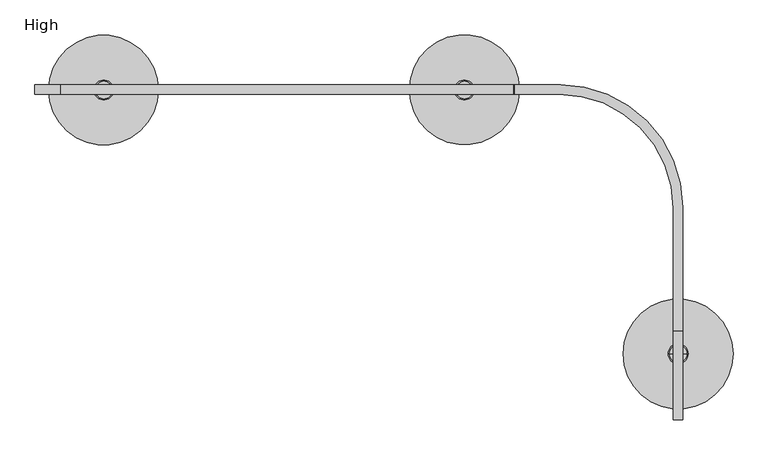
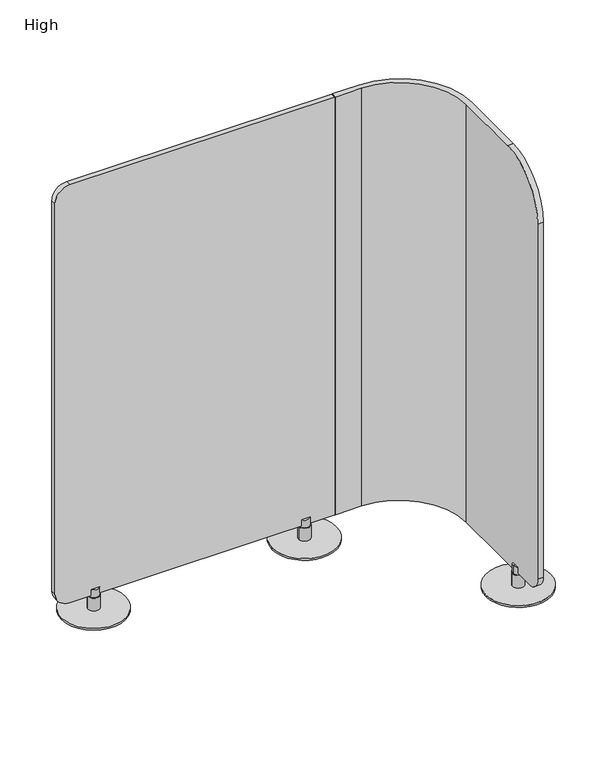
"""IFC4 building model written with IfcOpenShell, lengths in millimetres: furniture geometry, Coalesse_AM_SpaceDivision_Screen_Ensemble_J : High."""

from ifc_helpers import new_model, si_unit, point, frame, frame_2d, origin, origin_with_axes, place, context, project, spatial, polyline, circle_curve, trimmed, segment, composite_curve, outline, extrude, source, transform, mapped, element, save
from ifc_brep_helpers import plane_surface, cylinder_surface, revolved_surface, advanced_brep


def high_5fa6e08a(model_context):
    return source(origin(), model_context, "Body", "SolidModel", [
        advanced_brep(
        [(1070.6348132, -12.7, 7.8732992), (1121.4348132, -12.7, 7.8732992), (1096.0348132, -12.7, 7.8732992), (1070.6348132, -12.7, 67.1258584), (1121.4348132, -12.7, 67.1258584), (1073.8888853, -12.7, 67.1258584), (1118.1807411, -12.7, 67.1258584), (1073.8888853, -12.7, 102.873817), (1118.1807411, -12.7, 102.873817), (1096.0348132, -12.7, 102.873817)],
        [
            (0, 1, circle_curve(frame((1096.0348132, -12.7, 7.8732992), z_axis=(0.0, 0.0, -1.0), x_axis=(1.0, 0.0, 0.0)), 25.4)),
            (1, 2),
            (2, 0),
            (1, 0, circle_curve(frame((1096.0348132, -12.7, 7.8732992), z_axis=(0.0, 0.0, -1.0), x_axis=(1.0, 0.0, 0.0)), 25.4)),
            (3, 4, circle_curve(frame((1096.0348132, -12.7, 67.1258584), z_axis=(0.0, 0.0, -1.0), x_axis=(1.0, 0.0, 0.0)), 25.4)),
            (4, 1),
            (0, 3),
            (4, 3, circle_curve(frame((1096.0348132, -12.7, 67.1258584), z_axis=(0.0, 0.0, -1.0), x_axis=(1.0, 0.0, 0.0)), 25.4)),
            (5, 6, circle_curve(frame((1096.0348132, -12.7, 67.1258584), z_axis=(0.0, 0.0, -1.0), x_axis=(1.0, 0.0, 0.0)), 22.1459279)),
            (6, 4),
            (3, 5),
            (6, 5, circle_curve(frame((1096.0348132, -12.7, 67.1258584), z_axis=(0.0, 0.0, -1.0), x_axis=(1.0, 0.0, 0.0)), 22.1459279)),
            (7, 8, circle_curve(frame((1096.0348132, -12.7, 102.873817), z_axis=(0.0, 0.0, -1.0), x_axis=(1.0, 0.0, 0.0)), 22.1459279)),
            (8, 6),
            (5, 7),
            (8, 7, circle_curve(frame((1096.0348132, -12.7, 102.873817), z_axis=(0.0, 0.0, -1.0), x_axis=(1.0, 0.0, 0.0)), 22.1459279)),
            (9, 8),
            (7, 9),
        ],
        [
            plane_surface(frame((1096.0348132, -12.7, 7.8732992), z_axis=(0.0, 0.0, -1.0), x_axis=(1.0, 0.0, 0.0))),
            cylinder_surface(frame((1096.0348132, -12.7, 102.873817), z_axis=(0.0, 0.0, 1.0), x_axis=(1.0, 0.0, 0.0)), 25.4),
            plane_surface(frame((1096.0348132, -12.7, 67.1258584), z_axis=(0.0, 0.0, 1.0), x_axis=(1.0, 0.0, 0.0))),
            cylinder_surface(frame((1096.0348132, -12.7, 102.873817), z_axis=(0.0, 0.0, 1.0), x_axis=(1.0, 0.0, 0.0)), 22.1459279),
            plane_surface(frame((1096.0348132, -12.7, 102.873817), z_axis=(0.0, 0.0, 1.0), x_axis=(1.0, 0.0, 0.0))),
        ],
        [
            (0, [[1, 2, 3]]),
            (0, [[4, -3, -2]]),
            (1, [[5, 6, -1, 7]]),
            (1, [[8, -7, -4, -6]]),
            (2, [[9, 10, -5, 11]]),
            (2, [[12, -11, -8, -10]]),
            (3, [[13, 14, -9, 15]]),
            (3, [[16, -15, -12, -14]]),
            (4, [[17, -13, 18]]),
            (4, [[-18, -16, -17]]),
        ],
    ),
        advanced_brep(
        [(1653.2794195, -628.1115594, 2004.822), (1653.2794195, -853.9734079, 1778.9601515), (1653.2794195, -853.9734079, 139.3436268), (1653.2794195, -789.1395851, 74.509804), (1653.2794195, -311.8992003, 74.5093328), (1653.2794195, -311.8992003, 2004.822), (1629.3018689, -789.1395851, 74.509804), (1629.3018689, -853.9734079, 139.3436268), (1629.3018689, -853.9734079, 1778.9601515), (1629.3018689, -628.1115594, 2004.822), (1629.3018689, -314.6621864, 2004.822), (1629.3018689, -314.6621864, 74.5093328), (1338.6115194, -23.9718373, 74.509804), (1224.5282013, -23.9774863, 74.509804), (1224.5282013, 0.0, 74.509804), (1341.4047188, 0.0, 74.509804), (1341.4047188, 0.0, 2004.822), (1224.5474217, 0.0, 2004.822), (1224.5474217, -23.9774863, 2004.822), (1338.6115194, -23.9718373, 2004.822), (1223.313448, 0.0, 75.7241996), (1223.313448, 0.0, 2003.5880263), (1223.313448, -23.9774863, 2003.5880263), (1223.313448, -23.9774863, 75.7241996)],
        [
            (0, 1, circle_curve(frame((1653.2794195, -628.1115594, 1778.9601515), z_axis=(1.0, 0.0, 0.0), x_axis=(0.0, 1.0, 0.0)), 225.8618485)),
            (1, 2),
            (2, 3, circle_curve(frame((1653.2794195, -789.1395851, 139.3436268), z_axis=(1.0, 0.0, 0.0), x_axis=(0.0, 1.0, 0.0)), 64.8338228)),
            (3, 4),
            (4, 5),
            (5, 0),
            (6, 7, circle_curve(frame((1629.3018689, -789.1395851, 139.3436268), z_axis=(-1.0, 0.0, 0.0), x_axis=(0.0, 1.0, 0.0)), 64.8338228)),
            (7, 8),
            (8, 9, circle_curve(frame((1629.3018689, -628.1115594, 1778.9601515), z_axis=(-1.0, 0.0, 0.0), x_axis=(0.0, 1.0, 0.0)), 225.8618485)),
            (9, 10),
            (10, 11),
            (11, 6),
            (0, 9),
            (8, 1),
            (7, 2),
            (6, 3),
            (11, 12, circle_curve(frame((1338.6115194, -314.6621864, 74.509804), z_axis=(0.0, 0.0, 1.0), x_axis=(1.0, 0.0, 0.0)), 290.690349)),
            (12, 13),
            (13, 14),
            (14, 15),
            (15, 4, circle_curve(frame((1341.4047188, -311.8992003, 74.509804), z_axis=(0.0, 0.0, -1.0), x_axis=(1.0, 0.0, 0.0)), 311.8992003)),
            (5, 16, circle_curve(frame((1341.4047188, -311.8992003, 2004.822), z_axis=(0.0, 0.0, 1.0), x_axis=(1.0, 0.0, 0.0)), 311.8992003)),
            (16, 17),
            (17, 18),
            (18, 19),
            (19, 10, circle_curve(frame((1338.6115194, -314.6621864, 2004.822), z_axis=(0.0, 0.0, -1.0), x_axis=(1.0, 0.0, 0.0)), 290.690349)),
            (15, 16),
            (14, 20, circle_curve(frame((1224.5282013, 0.0, 75.7241996), z_axis=(0.0, 1.0, 0.0), x_axis=(1.0, 0.0, 0.0)), 1.2147532)),
            (20, 21),
            (21, 17, circle_curve(frame((1224.5474217, 0.0, 2003.5880263), z_axis=(0.0, 1.0, 0.0), x_axis=(1.0, 0.0, 0.0)), 1.2339737)),
            (22, 18, circle_curve(frame((1224.5474217, -23.9774863, 2003.5880263), z_axis=(0.0, 1.0, 0.0), x_axis=(1.0, 0.0, 0.0)), 1.2339737)),
            (21, 22),
            (23, 22),
            (20, 23),
            (13, 23, circle_curve(frame((1224.5282013, -23.9774863, 75.7241996), z_axis=(0.0, 1.0, 0.0), x_axis=(1.0, 0.0, 0.0)), 1.2147532)),
            (12, 19),
        ],
        [
            plane_surface(frame((1653.2794195, -402.2497109, 1778.9601515), z_axis=(1.0, 0.0, 0.0), x_axis=(0.0, 0.0, 1.0))),
            plane_surface(frame((1629.3018689, -402.2497109, 1778.9601515), z_axis=(-1.0, 0.0, 0.0), x_axis=(0.0, 0.0, -1.0))),
            cylinder_surface(frame((1629.3018689, -628.1115594, 1778.9601515), z_axis=(1.0, 0.0, 0.0), x_axis=(0.0, 1.0, 0.0)), 225.8618485),
            plane_surface(frame((1653.2794195, -853.9734079, 1778.9601515), z_axis=(0.0, -1.0, 0.0), x_axis=(-1.0, 0.0, 0.0))),
            cylinder_surface(frame((1629.3018689, -789.1395851, 139.3436268), z_axis=(1.0, 0.0, 0.0), x_axis=(0.0, 1.0, 0.0)), 64.8338228),
            plane_surface(frame((1653.2794195, -789.1395851, 74.509804), z_axis=(0.0, 0.0, -1.0), x_axis=(-1.0, 0.0, 0.0))),
            plane_surface(frame((1653.2794195, -317.5353355, 2004.822), z_axis=(0.0, 0.0, 1.0), x_axis=(-1.0, 0.0, 0.0))),
            cylinder_surface(frame((1341.4047188, -311.8992003, 74.5093328), z_axis=(0.0, 0.0, 1.0), x_axis=(1.0, 0.0, 0.0)), 311.8992003),
            plane_surface(frame((1341.4047188, 0.0, 2004.822), z_axis=(0.0, 1.0, 0.0), x_axis=(0.0, 0.0, -1.0))),
            cylinder_surface(frame((1224.5474217, 0.0, 2003.5880263), z_axis=(0.0, -1.0, 0.0), x_axis=(1.0, 0.0, 0.0)), 1.2339737),
            plane_surface(frame((1223.313448, -23.9774863, 2003.5880263), z_axis=(-1.0, 0.0, 0.0), x_axis=(0.0, 1.0, 0.0))),
            cylinder_surface(frame((1224.5282013, 0.0, 75.7241996), z_axis=(0.0, -1.0, 0.0), x_axis=(1.0, 0.0, 0.0)), 1.2147532),
            plane_surface(frame((1337.0743869, -23.9718373, 2004.822), z_axis=(0.0, -1.0, 0.0), x_axis=(0.0, 0.0, -1.0))),
            revolved_surface(polyline([(1629.3018683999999, -314.6621864, 74.5093328), (1629.3018683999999, -314.6621864, 2004.822)]), (1338.6115194, -314.6621864, 74.5093328), (0.0, 0.0, -1.0)),
        ],
        [
            (0, [[1, 2, 3, 4, 5, 6]]),
            (1, [[7, 8, 9, 10, 11, 12]]),
            (2, [[-1, 13, -9, 14]]),
            (3, [[-2, -14, -8, 15]]),
            (4, [[-3, -15, -7, 16]]),
            (5, [[-16, -12, 17, 18, 19, 20, 21, -4]]),
            (6, [[-13, -6, 22, 23, 24, 25, 26, -10]]),
            (7, [[-22, -5, -21, 27]]),
            (8, [[-23, -27, -20, 28, 29, 30]]),
            (9, [[31, -24, -30, 32]]),
            (10, [[33, -32, -29, 34]]),
            (11, [[35, -34, -28, -19]]),
            (12, [[-25, -31, -33, -35, -18, 36]]),
            (13, [[-26, -36, -17, -11]]),
        ],
    ),
        extrude(outline(composite_curve([segment(trimmed(circle_curve(frame_2d((1939.8583364, 64.9636636)), 64.9636636), [point((2004.822, 64.9636636))], [point((1939.8583364, 0.0))], False, "CARTESIAN"), True, "CONTINUOUS"), segment(polyline([(1939.8583364, 0.0), (138.0093328, 0.0)]), True, "CONTINUOUS"), segment(trimmed(circle_curve(frame_2d((138.0093328, 63.5)), 63.5), [point((138.0093328, 0.0))], [point((74.5093328, 63.5))], False, "CARTESIAN"), True, "CONTINUOUS"), segment(polyline([(74.5093328, 63.5), (74.5093328, 1222.03476)]), True, "CONTINUOUS"), segment(trimmed(circle_curve(frame_2d((75.7880209, 1222.03476)), 1.278688), [point((74.5093328, 1222.03476))], [point((75.7880209, 1223.313448))], False, "CARTESIAN"), True, "CONTINUOUS"), segment(polyline([(75.7880209, 1223.313448), (2003.6400977, 1223.313448)]), True, "CONTINUOUS"), segment(trimmed(circle_curve(frame_2d((2003.6400977, 1222.1315458)), 1.1819023), [point((2003.6400977, 1223.313448))], [point((2004.822, 1222.1315458))], False, "CARTESIAN"), True, "CONTINUOUS"), segment(polyline([(2004.822, 1222.1315458), (2004.822, 64.9636636)]), True, "CONTINUOUS")], self_intersect=False)), frame((0.0, -23.9774863, 0.0), z_axis=(0.0, 1.0, 0.0), x_axis=(0.0, 0.0, 1.0)), (0.0, 0.0, 1.0), 23.9774863),
        advanced_brep(
        [(1616.006583, -685.8161337, 7.8732992), (1666.806583, -685.8161337, 7.8732992), (1641.406583, -685.8161337, 7.8732992), (1616.006583, -685.8161337, 67.1258584), (1666.806583, -685.8161337, 67.1258584), (1619.2606551, -685.8161337, 67.1258584), (1663.5525109, -685.8161337, 67.1258584), (1619.2606551, -685.8161337, 102.873817), (1663.5525109, -685.8161337, 102.873817), (1641.406583, -685.8161337, 102.873817)],
        [
            (0, 1, circle_curve(frame((1641.406583, -685.8161337, 7.8732992), z_axis=(0.0, 0.0, -1.0), x_axis=(1.0, 0.0, 0.0)), 25.4)),
            (1, 2),
            (2, 0),
            (1, 0, circle_curve(frame((1641.406583, -685.8161337, 7.8732992), z_axis=(0.0, 0.0, -1.0), x_axis=(1.0, 0.0, 0.0)), 25.4)),
            (3, 4, circle_curve(frame((1641.406583, -685.8161337, 67.1258584), z_axis=(0.0, 0.0, -1.0), x_axis=(1.0, 0.0, 0.0)), 25.4)),
            (4, 1),
            (0, 3),
            (4, 3, circle_curve(frame((1641.406583, -685.8161337, 67.1258584), z_axis=(0.0, 0.0, -1.0), x_axis=(1.0, 0.0, 0.0)), 25.4)),
            (5, 6, circle_curve(frame((1641.406583, -685.8161337, 67.1258584), z_axis=(0.0, 0.0, -1.0), x_axis=(1.0, 0.0, 0.0)), 22.1459279)),
            (6, 4),
            (3, 5),
            (6, 5, circle_curve(frame((1641.406583, -685.8161337, 67.1258584), z_axis=(0.0, 0.0, -1.0), x_axis=(1.0, 0.0, 0.0)), 22.1459279)),
            (7, 8, circle_curve(frame((1641.406583, -685.8161337, 102.873817), z_axis=(0.0, 0.0, -1.0), x_axis=(1.0, 0.0, 0.0)), 22.1459279)),
            (8, 6),
            (5, 7),
            (8, 7, circle_curve(frame((1641.406583, -685.8161337, 102.873817), z_axis=(0.0, 0.0, -1.0), x_axis=(1.0, 0.0, 0.0)), 22.1459279)),
            (9, 8),
            (7, 9),
        ],
        [
            plane_surface(frame((1641.406583, -685.8161337, 7.8732992), z_axis=(0.0, 0.0, -1.0), x_axis=(1.0, 0.0, 0.0))),
            cylinder_surface(frame((1641.406583, -685.8161337, 102.873817), z_axis=(0.0, 0.0, 1.0), x_axis=(1.0, 0.0, 0.0)), 25.4),
            plane_surface(frame((1641.406583, -685.8161337, 67.1258584), z_axis=(0.0, 0.0, 1.0), x_axis=(1.0, 0.0, 0.0))),
            cylinder_surface(frame((1641.406583, -685.8161337, 102.873817), z_axis=(0.0, 0.0, 1.0), x_axis=(1.0, 0.0, 0.0)), 22.1459279),
            plane_surface(frame((1641.406583, -685.8161337, 102.873817), z_axis=(0.0, 0.0, 1.0), x_axis=(1.0, 0.0, 0.0))),
        ],
        [
            (0, [[1, 2, 3]]),
            (0, [[4, -3, -2]]),
            (1, [[5, 6, -1, 7]]),
            (1, [[8, -7, -4, -6]]),
            (2, [[9, 10, -5, 11]]),
            (2, [[12, -11, -8, -10]]),
            (3, [[13, 14, -9, 15]]),
            (3, [[16, -15, -12, -14]]),
            (4, [[17, -13, 18]]),
            (4, [[-18, -16, -17]]),
        ],
    ),
        advanced_brep(
        [(150.4803497, -12.7, 7.8732992), (201.2803497, -12.7, 7.8732992), (175.8803497, -12.7, 7.8732992), (150.4803497, -12.7, 67.1258584), (201.2803497, -12.7, 67.1258584), (153.7344218, -12.7, 67.1258584), (198.0262776, -12.7, 67.1258584), (153.7344218, -12.7, 102.873817), (198.0262776, -12.7, 102.873817), (175.8803497, -12.7, 102.873817)],
        [
            (0, 1, circle_curve(frame((175.8803497, -12.7, 7.8732992), z_axis=(0.0, 0.0, -1.0), x_axis=(1.0, 0.0, 0.0)), 25.4)),
            (1, 2),
            (2, 0),
            (1, 0, circle_curve(frame((175.8803497, -12.7, 7.8732992), z_axis=(0.0, 0.0, -1.0), x_axis=(1.0, 0.0, 0.0)), 25.4)),
            (3, 4, circle_curve(frame((175.8803497, -12.7, 67.1258584), z_axis=(0.0, 0.0, -1.0), x_axis=(1.0, 0.0, 0.0)), 25.4)),
            (4, 1),
            (0, 3),
            (4, 3, circle_curve(frame((175.8803497, -12.7, 67.1258584), z_axis=(0.0, 0.0, -1.0), x_axis=(1.0, 0.0, 0.0)), 25.4)),
            (5, 6, circle_curve(frame((175.8803497, -12.7, 67.1258584), z_axis=(0.0, 0.0, -1.0), x_axis=(1.0, 0.0, 0.0)), 22.1459279)),
            (6, 4),
            (3, 5),
            (6, 5, circle_curve(frame((175.8803497, -12.7, 67.1258584), z_axis=(0.0, 0.0, -1.0), x_axis=(1.0, 0.0, 0.0)), 22.1459279)),
            (7, 8, circle_curve(frame((175.8803497, -12.7, 102.873817), z_axis=(0.0, 0.0, -1.0), x_axis=(1.0, 0.0, 0.0)), 22.1459279)),
            (8, 6),
            (5, 7),
            (8, 7, circle_curve(frame((175.8803497, -12.7, 102.873817), z_axis=(0.0, 0.0, -1.0), x_axis=(1.0, 0.0, 0.0)), 22.1459279)),
            (9, 8),
            (7, 9),
        ],
        [
            plane_surface(frame((175.8803497, -12.7, 7.8732992), z_axis=(0.0, 0.0, -1.0), x_axis=(1.0, 0.0, 0.0))),
            cylinder_surface(frame((175.8803497, -12.7, 102.873817), z_axis=(0.0, 0.0, 1.0), x_axis=(1.0, 0.0, 0.0)), 25.4),
            plane_surface(frame((175.8803497, -12.7, 67.1258584), z_axis=(0.0, 0.0, 1.0), x_axis=(1.0, 0.0, 0.0))),
            cylinder_surface(frame((175.8803497, -12.7, 102.873817), z_axis=(0.0, 0.0, 1.0), x_axis=(1.0, 0.0, 0.0)), 22.1459279),
            plane_surface(frame((175.8803497, -12.7, 102.873817), z_axis=(0.0, 0.0, 1.0), x_axis=(1.0, 0.0, 0.0))),
        ],
        [
            (0, [[1, 2, 3]]),
            (0, [[4, -3, -2]]),
            (1, [[5, 6, -1, 7]]),
            (1, [[8, -7, -4, -6]]),
            (2, [[9, 10, -5, 11]]),
            (2, [[12, -11, -8, -10]]),
            (3, [[13, 14, -9, 15]]),
            (3, [[16, -15, -12, -14]]),
            (4, [[17, -13, 18]]),
            (4, [[-18, -16, -17]]),
        ],
    ),
        extrude(outline(composite_curve([segment(trimmed(circle_curve(frame_2d((174.96528, -12.7801048)), 140.0479005), [point((34.9173795, -12.7801048))], [point((315.0131805, -12.7801048))], False, "CARTESIAN"), True, "CONTINUOUS"), segment(trimmed(circle_curve(frame_2d((174.96528, -12.7801048)), 140.0479005), [point((315.0131805, -12.7801048))], [point((34.9173795, -12.7801048))], False, "CARTESIAN"), True, "CONTINUOUS")], self_intersect=False)), origin_with_axes(), (0.0, 0.0, 1.0), 7.8732992),
        extrude(outline(composite_curve([segment(trimmed(circle_curve(frame_2d((1641.2884683, -686.081839)), 140.3919114), [point((1500.8965568, -686.081839))], [point((1781.6803797, -686.081839))], False, "CARTESIAN"), True, "CONTINUOUS"), segment(trimmed(circle_curve(frame_2d((1641.2884683, -686.081839)), 140.3919114), [point((1781.6803797, -686.081839))], [point((1500.8965568, -686.081839))], False, "CARTESIAN"), True, "CONTINUOUS")], self_intersect=False)), origin_with_axes(), (0.0, 0.0, 1.0), 7.8732992),
        extrude(outline(composite_curve([segment(trimmed(circle_curve(frame_2d((1096.127587, -11.9908814)), 140.3919114), [point((955.7356756, -11.9908814))], [point((1236.5194984, -11.9908814))], False, "CARTESIAN"), True, "CONTINUOUS"), segment(trimmed(circle_curve(frame_2d((1096.127587, -11.9908814)), 140.3919114), [point((1236.5194984, -11.9908814))], [point((955.7356756, -11.9908814))], False, "CARTESIAN"), True, "CONTINUOUS")], self_intersect=False)), origin_with_axes(), (0.0, 0.0, 1.0), 7.8732992),
    ])


if __name__ == "__main__":
    model = new_model("IFC4")
    model_context = context("Model", 3, world=origin())
    ifc_project = project(units=[si_unit("LENGTHUNIT", "METRE", prefix="MILLI")], contexts=[model_context])
    site = spatial("IfcSite", under=ifc_project)
    building = spatial("IfcBuilding", under=site)
    placement = place(None, origin())
    high_shape = high_5fa6e08a(model_context)
    element("IfcFurniture", 1, ObjectType="Coalesse_AM_SpaceDivision_Screen_Ensemble_J : High", at=placement, inside=building, context=model_context, shape_type="MappedRepresentation", body=[
        mapped(high_shape, transform((0.0, 0.0, 0.0), x_axis=(1.0, 0.0, 0.0), y_axis=(0.0, 1.0, 0.0), z_axis=(0.0, 0.0, 1.0))),
    ])
    save(model, "model.ifc")
